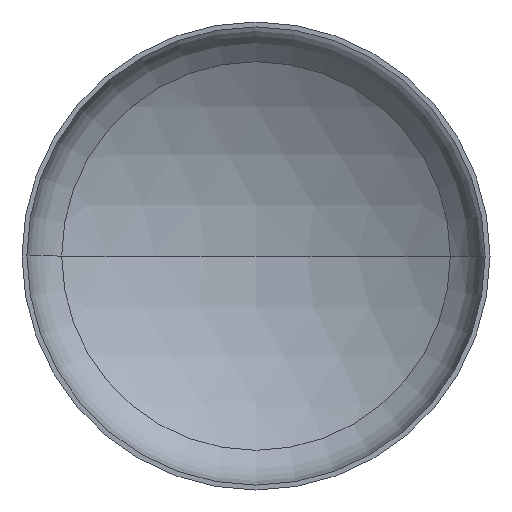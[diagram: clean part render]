
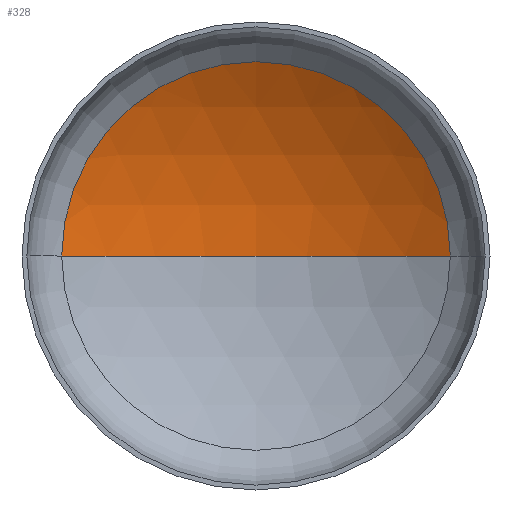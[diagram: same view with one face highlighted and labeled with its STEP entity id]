
A CAD part, front view. The second image highlights one B-rep face of the part: STEP entity #328.
In plain terms, the highlighted spherical face has radius 1760 mm.
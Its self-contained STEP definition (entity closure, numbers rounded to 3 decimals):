
#20 = EDGE_LOOP ( 'NONE', ( #90, #72, #29 ) ) ;
#29 = ORIENTED_EDGE ( 'NONE', *, *, #98, .T. ) ;
#36 = AXIS2_PLACEMENT_3D ( 'NONE', #184, #349, #216 ) ;
#38 = CIRCLE ( 'NONE', #42, 913.465 ) ;
#39 = AXIS2_PLACEMENT_3D ( 'NONE', #210, #211, #196 ) ;
#42 = AXIS2_PLACEMENT_3D ( 'NONE', #300, #230, #228 ) ;
#57 = VERTEX_POINT ( 'NONE', #296 ) ;
#72 = ORIENTED_EDGE ( 'NONE', *, *, #101, .T. ) ;
#90 = ORIENTED_EDGE ( 'NONE', *, *, #103, .F. ) ;
#93 = VERTEX_POINT ( 'NONE', #209 ) ;
#98 = EDGE_CURVE ( 'NONE', #93, #57, #38, .T. ) ;
#101 = EDGE_CURVE ( 'NONE', #130, #93, #372, .T. ) ;
#103 = EDGE_CURVE ( 'NONE', #130, #57, #312, .T. ) ;
#130 = VERTEX_POINT ( 'NONE', #257 ) ;
#141 = FACE_OUTER_BOUND ( 'NONE', #20, .T. ) ;
#163 = CARTESIAN_POINT ( 'NONE',  ( 0., -1143.767, 0. ) ) ;
#184 = CARTESIAN_POINT ( 'NONE',  ( 0., -1143.767, 0. ) ) ;
#196 = DIRECTION ( 'NONE',  ( -1., 0., 0. ) ) ;
#209 = CARTESIAN_POINT ( 'NONE',  ( 913.465, 360.62, 0. ) ) ;
#210 = CARTESIAN_POINT ( 'NONE',  ( 0., -1143.767, 0. ) ) ;
#211 = DIRECTION ( 'NONE',  ( 0., 0., -1. ) ) ;
#216 = DIRECTION ( 'NONE',  ( 1., 0., 0. ) ) ;
#217 = DIRECTION ( 'NONE',  ( -1., 0., 0. ) ) ;
#228 = DIRECTION ( 'NONE',  ( 1., 0., 0. ) ) ;
#230 = DIRECTION ( 'NONE',  ( 0., -1., 0. ) ) ;
#257 = CARTESIAN_POINT ( 'NONE',  ( 0., 616.233, 0. ) ) ;
#285 = SPHERICAL_SURFACE ( 'NONE', #375, 1760. ) ;
#296 = CARTESIAN_POINT ( 'NONE',  ( -913.465, 360.62, 0. ) ) ;
#300 = CARTESIAN_POINT ( 'NONE',  ( 0., 360.62, 0. ) ) ;
#312 = CIRCLE ( 'NONE', #36, 1760. ) ;
#328 = ADVANCED_FACE ( 'NONE', ( #141 ), #285, .F. ) ;
#349 = DIRECTION ( 'NONE',  ( 0., 0., 1. ) ) ;
#372 = CIRCLE ( 'NONE', #39, 1760. ) ;
#375 = AXIS2_PLACEMENT_3D ( 'NONE', #163, #394, #217 ) ;
#394 = DIRECTION ( 'NONE',  ( 0., 0., -1. ) ) ;
